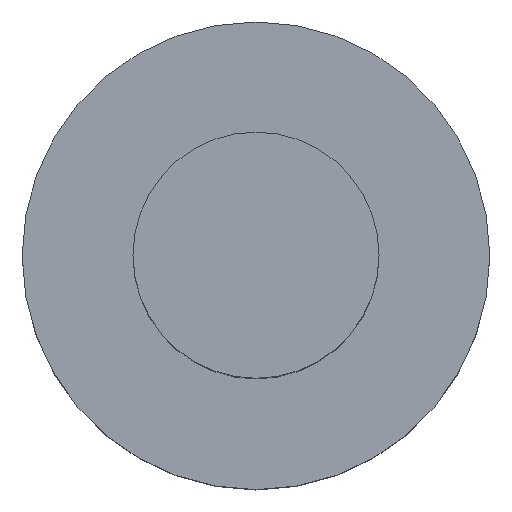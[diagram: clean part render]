
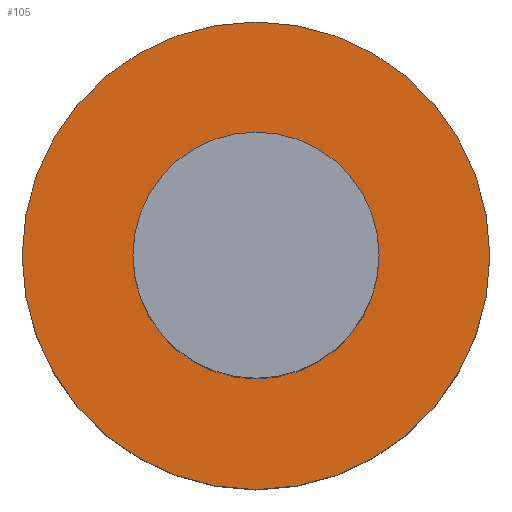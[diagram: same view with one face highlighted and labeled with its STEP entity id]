
A CAD part, top view. The second image highlights one B-rep face of the part: STEP entity #105.
In plain terms, the highlighted planar face has unit normal (0, 0, 1).
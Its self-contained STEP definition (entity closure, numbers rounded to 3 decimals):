
#21 = EDGE_CURVE('',#22,#22,#24,.T.);
#22 = VERTEX_POINT('',#23);
#23 = CARTESIAN_POINT('',(10.4,26.1,8.9));
#24 = SURFACE_CURVE('',#25,(#30,#42),.PCURVE_S1.);
#25 = CIRCLE('',#26,1.9);
#26 = AXIS2_PLACEMENT_3D('',#27,#28,#29);
#27 = CARTESIAN_POINT('',(8.5,26.1,8.9));
#28 = DIRECTION('',(0.,0.,1.));
#29 = DIRECTION('',(1.,0.,-0.));
#30 = PCURVE('',#31,#36);
#31 = CYLINDRICAL_SURFACE('',#32,1.9);
#32 = AXIS2_PLACEMENT_3D('',#33,#34,#35);
#33 = CARTESIAN_POINT('',(8.5,26.1,7.3));
#34 = DIRECTION('',(0.,0.,1.));
#35 = DIRECTION('',(1.,0.,-0.));
#36 = DEFINITIONAL_REPRESENTATION('',(#37),#41);
#37 = LINE('',#38,#39);
#38 = CARTESIAN_POINT('',(0.,1.6));
#39 = VECTOR('',#40,1.);
#40 = DIRECTION('',(1.,0.));
#41 = ( GEOMETRIC_REPRESENTATION_CONTEXT(2) 
PARAMETRIC_REPRESENTATION_CONTEXT() REPRESENTATION_CONTEXT('2D SPACE',''
  ) );
#42 = PCURVE('',#43,#48);
#43 = PLANE('',#44);
#44 = AXIS2_PLACEMENT_3D('',#45,#46,#47);
#45 = CARTESIAN_POINT('',(8.5,26.1,8.9));
#46 = DIRECTION('',(0.,0.,1.));
#47 = DIRECTION('',(1.,0.,-0.));
#48 = DEFINITIONAL_REPRESENTATION('',(#49),#53);
#49 = CIRCLE('',#50,1.9);
#50 = AXIS2_PLACEMENT_2D('',#51,#52);
#51 = CARTESIAN_POINT('',(0.,0.));
#52 = DIRECTION('',(1.,0.));
#53 = ( GEOMETRIC_REPRESENTATION_CONTEXT(2) 
PARAMETRIC_REPRESENTATION_CONTEXT() REPRESENTATION_CONTEXT('2D SPACE',''
  ) );
#105 = ADVANCED_FACE('',(#106,#109),#43,.T.);
#106 = FACE_BOUND('',#107,.T.);
#107 = EDGE_LOOP('',(#108));
#108 = ORIENTED_EDGE('',*,*,#21,.T.);
#109 = FACE_BOUND('',#110,.T.);
#110 = EDGE_LOOP('',(#111));
#111 = ORIENTED_EDGE('',*,*,#112,.F.);
#112 = EDGE_CURVE('',#113,#113,#115,.T.);
#113 = VERTEX_POINT('',#114);
#114 = CARTESIAN_POINT('',(9.5,26.1,8.9));
#115 = SURFACE_CURVE('',#116,(#121,#128),.PCURVE_S1.);
#116 = CIRCLE('',#117,1.);
#117 = AXIS2_PLACEMENT_3D('',#118,#119,#120);
#118 = CARTESIAN_POINT('',(8.5,26.1,8.9));
#119 = DIRECTION('',(0.,0.,1.));
#120 = DIRECTION('',(1.,0.,-0.));
#121 = PCURVE('',#43,#122);
#122 = DEFINITIONAL_REPRESENTATION('',(#123),#127);
#123 = CIRCLE('',#124,1.);
#124 = AXIS2_PLACEMENT_2D('',#125,#126);
#125 = CARTESIAN_POINT('',(0.,0.));
#126 = DIRECTION('',(1.,0.));
#127 = ( GEOMETRIC_REPRESENTATION_CONTEXT(2) 
PARAMETRIC_REPRESENTATION_CONTEXT() REPRESENTATION_CONTEXT('2D SPACE',''
  ) );
#128 = PCURVE('',#129,#134);
#129 = CYLINDRICAL_SURFACE('',#130,1.);
#130 = AXIS2_PLACEMENT_3D('',#131,#132,#133);
#131 = CARTESIAN_POINT('',(8.5,26.1,8.9));
#132 = DIRECTION('',(0.,0.,1.));
#133 = DIRECTION('',(1.,0.,-0.));
#134 = DEFINITIONAL_REPRESENTATION('',(#135),#139);
#135 = LINE('',#136,#137);
#136 = CARTESIAN_POINT('',(0.,0.));
#137 = VECTOR('',#138,1.);
#138 = DIRECTION('',(1.,0.));
#139 = ( GEOMETRIC_REPRESENTATION_CONTEXT(2) 
PARAMETRIC_REPRESENTATION_CONTEXT() REPRESENTATION_CONTEXT('2D SPACE',''
  ) );
